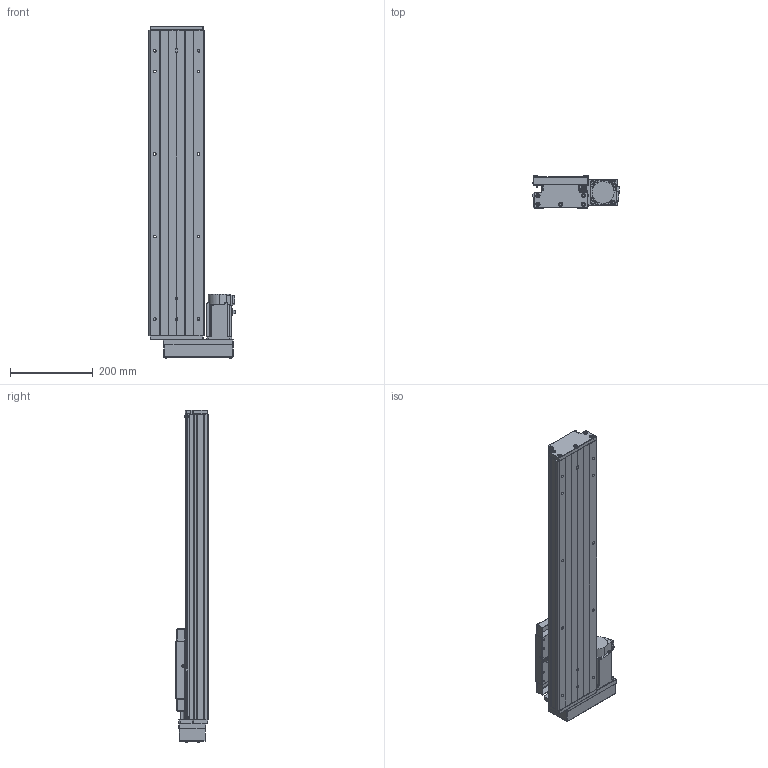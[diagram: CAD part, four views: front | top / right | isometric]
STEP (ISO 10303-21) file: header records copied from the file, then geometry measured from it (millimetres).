
FILE_DESCRIPTION (( 'STEP AP203' ), '1' );
FILE_NAME ('GTH14-500-BR-M40-C4.step', '2023-06-30T08:54:33', ( '微软用户' ), ( '微软中国' ), 'SwSTEP 2.0', 'SolidWorks 2020', '' );
FILE_SCHEMA (( 'CONFIG_CONTROL_DESIGN' ));
Length unit declared in the file: millimetre
Products named in the file (19): GBT70.1 M5℅16; GBT 70.1-M3℅5; GTH14-015-2_CTHA86-015-2; CTHA60-017; GBT77-2000 M3×3; GTH14-001_500; GTH14-033; GTH14-031; GTH14-002_GTH14-002; GTH14-500-BR-M40-C4; GBT 70.2-M3¡Á5_M3¡Á6; GTH14-004; す晦芛蹟隊 M3℅5; GTH14-005; EE_SX911P_R; HG-KN43J-S100; GB1155-6X6; CTHA60-016; GBT 70.2-M4¡Á35_M4¡Á35
Assembly tree (58 placements, depth 2):
  GTH14-500-BR-M40-C4
    GTH14-001_500
    GTH14-002_GTH14-002
    GTH14-004
    GTH14-005
    GB1155-6X6  x2
    GBT70.1 M5℅16  x10
    CTHA60-017  x3
    EE_SX911P_R  x3
    CTHA60-016  x2
    GBT 70.1-M3℅5  x6
    GBT77-2000 M3×3  x6
    GTH14-031
    GBT 70.2-M3¡Á5_M3¡Á6  x8
    す晦芛蹟隊 M3℅5  x6
    HG-KN43J-S100
    GBT 70.2-M4¡Á35_M4¡Á35  x4
    GTH14-015-2_CTHA86-015-2
    GTH14-033
Bounding box: 209.3 x 78 x 804.2 mm (x, y, z)
Volume: 4563918.8 mm3; surface area: 792260.6 mm2
Topology: 61 solids, 61 shells, 2453 faces, 5833 edges, 3594 vertices
Faces by surface type: plane 1307, cylinder 656, cone 314, torus 124, sphere 32, bspline 20
Entity records: 44158 total; most frequent: CARTESIAN_POINT 9857, DIRECTION 6489, ORIENTED_EDGE 6356, EDGE_CURVE 3178, AXIS2_PLACEMENT_3D 2218, VECTOR 2053, LINE 2053, VERTEX_POINT 2012
